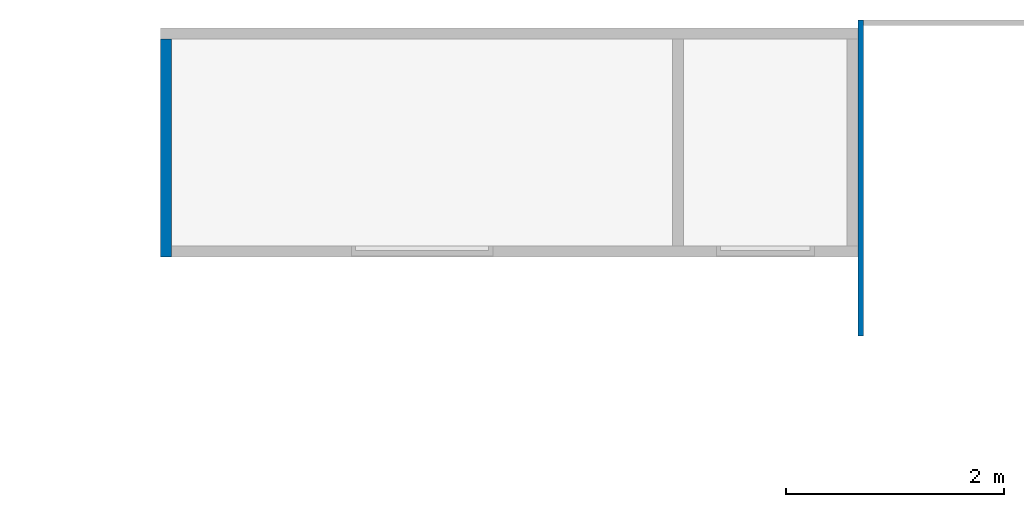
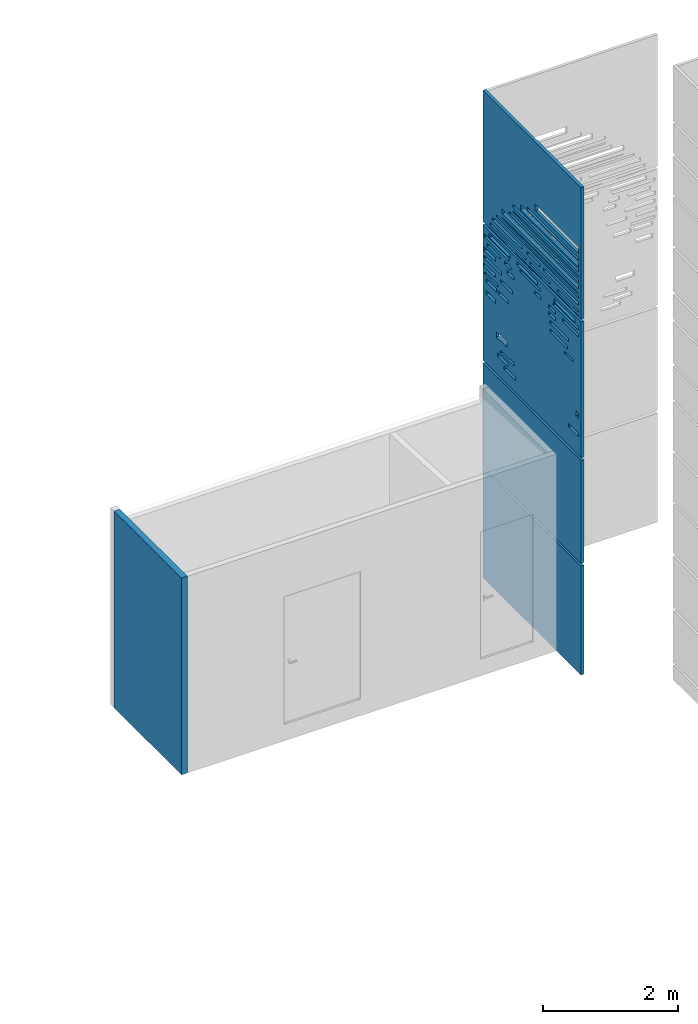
# One storey, part 27 of 49: 2 walls, 50 openings.
"""IFC2X3 building model written with IfcOpenShell, lengths in millimetres."""

import ifcopenshell
import ifcopenshell.guid

model = None  # the IFC model being written
_history = None  # IfcOwnerHistory: only IFC2X3 demands one
_inside = {}  # id of a spatial element -> (the spatial element, [elements in it])
_under = {}  # id of a project, library or spatial element -> (it, [spatial elements below it])
_declared = {}  # id of a project -> (the project, [libraries it declares])
_typed = {}  # id of a type object -> (the type object, [elements of that type])
_made_of = {}  # id of a material, layer set ... -> (it, [elements and type objects made of it])


def new_model(schema):
    """Start an empty IFC model of exactly this schema.

    Asked for "IFC4X3", IfcOpenShell would pick the latest addendum, in which some entities
    have other attributes; the version numbers below select the first issue.
    IFC2X3 requires an IfcOwnerHistory on every rooted entity: one is made here for all.
    """
    global model, _history
    if schema == "IFC4X3":
        model = ifcopenshell.file(schema_version=(4, 3, 0, 0))
    else:
        model = ifcopenshell.file(schema=schema)
    _inside.clear()
    _under.clear()
    _declared.clear()
    _typed.clear()
    _made_of.clear()
    _history = None
    if model.schema == "IFC2X3":
        org = make("IfcOrganization", Name="unknown")
        user = make(
            "IfcPersonAndOrganization",
            ThePerson=make("IfcPerson", FamilyName="unknown"),
            TheOrganization=org,
        )
        app = make(
            "IfcApplication",
            ApplicationDeveloper=org,
            Version="unknown",
            ApplicationFullName="unknown",
            ApplicationIdentifier="unknown",
        )
        _history = make(
            "IfcOwnerHistory",
            OwningUser=user,
            OwningApplication=app,
            ChangeAction="ADDED",
            CreationDate=0,
        )
    return model


def make(cls, **values):
    """One entity of the class cls with the attributes given. An attribute that is None is left unset."""
    return model.create_entity(
        cls, **{name: value for name, value in values.items() if value is not None}
    )


def entity(cls, *values):
    """Any entity or typed value of the class cls, its attributes in the order of the schema. None: left unset."""
    e = model.create_entity(cls)
    for i, value in enumerate(values):
        if value is not None:
            e[i] = value
    return e


def rooted(cls, **values):
    """An entity with a GlobalId (a new one), such as an element, a storey or a relation."""
    return make(cls, GlobalId=ifcopenshell.guid.new(), OwnerHistory=_history, **values)


def si_unit(unit_type, name, prefix=None):
    """IfcSIUnit, for example si_unit("LENGTHUNIT", "METRE", prefix="MILLI")."""
    return make("IfcSIUnit", UnitType=unit_type, Prefix=prefix, Name=name)


def converted_unit(unit_type, name, factor, base, dimensions=None, offset=None):
    """IfcConversionBasedUnit, such as the inch: factor (a typed value) times the base unit."""
    return make(
        "IfcConversionBasedUnit"
        if offset is None
        else "IfcConversionBasedUnitWithOffset",
        ConversionOffset=offset,
        Dimensions=None
        if dimensions is None
        else entity("IfcDimensionalExponents", *dimensions),
        UnitType=unit_type,
        Name=name,
        ConversionFactor=make(
            "IfcMeasureWithUnit", ValueComponent=factor, UnitComponent=base
        ),
    )


def derived_unit(unit_type, elements):
    """IfcDerivedUnit: a product of units, each with its exponent."""
    return make(
        "IfcDerivedUnit",
        Elements=[
            make("IfcDerivedUnitElement", Unit=unit, Exponent=power)
            for unit, power in elements
        ],
        UnitType=unit_type,
    )


def assignment(units):
    """IfcUnitAssignment: the units of a project."""
    return None if units is None else make("IfcUnitAssignment", Units=units)


def point(xyz):
    """IfcCartesianPoint."""
    return None if xyz is None else make("IfcCartesianPoint", Coordinates=xyz)


def direction(xyz):
    """IfcDirection."""
    return None if xyz is None else make("IfcDirection", DirectionRatios=xyz)


def frame(location, z_axis=None, x_axis=None):
    """IfcAxis2Placement3D, a coordinate frame: its origin and axes. An axis left out is left unset."""
    return make(
        "IfcAxis2Placement3D",
        Location=point(location),
        Axis=direction(z_axis),
        RefDirection=direction(x_axis),
    )


def frame_2d(location, x_axis=None):
    """IfcAxis2Placement2D, a coordinate frame in the plane: its origin and x axis."""
    return make(
        "IfcAxis2Placement2D", Location=point(location), RefDirection=direction(x_axis)
    )


def origin():
    """The frame at (0, 0, 0) with its axes left unset."""
    return frame((0.0, 0.0, 0.0))


def origin_2d_with_axis():
    """The frame at (0, 0) in the plane with the x axis (1, 0) written out."""
    return frame_2d((0.0, 0.0), x_axis=(1.0, 0.0))


def place(relative_to, where):
    """IfcLocalPlacement: puts the frame where relative to a parent placement (None: the world)."""
    return make(
        "IfcLocalPlacement", PlacementRelTo=relative_to, RelativePlacement=where
    )


def context(
    kind, dimensions, precision=None, world=None, true_north=None, identifier=None
):
    """IfcGeometricRepresentationContext, for example the 3D "Model" context."""
    return make(
        "IfcGeometricRepresentationContext",
        ContextIdentifier=identifier,
        ContextType=kind,
        CoordinateSpaceDimension=dimensions,
        Precision=precision,
        WorldCoordinateSystem=world,
        TrueNorth=true_north,
    )


def subcontext(parent, identifier, kind, view, scale=None):
    """IfcGeometricRepresentationSubContext, for example "Body" below "Model"."""
    return make(
        "IfcGeometricRepresentationSubContext",
        ContextIdentifier=identifier,
        ContextType=kind,
        ParentContext=parent,
        TargetScale=scale,
        TargetView=view,
    )


def project(units=None, contexts=None):
    """IfcProject with its units and contexts."""
    return rooted(
        "IfcProject",
        Name="project",
        RepresentationContexts=contexts,
        UnitsInContext=assignment(units),
    )


def spatial(cls, under=None, at=None, **own):
    """A site, building, storey or space (cls), placed at a placement, below another one or the project."""
    s = rooted(cls, ObjectPlacement=at, **own)
    if under is not None:
        _under.setdefault(under.id(), (under, []))[1].append(s)
    return s


def profile(cls, at=None, kind="AREA", **sizes):
    """A parametric profile (cls). Its sizes go by their IFC names, for example OverallWidth=200.0."""
    return make(cls, ProfileType=kind, Position=at, **sizes)


def rectangle(**sizes):
    """IfcRectangleProfileDef."""
    return profile("IfcRectangleProfileDef", **sizes)


def extrude(swept, where, along, depth):
    """IfcExtrudedAreaSolid: the profile swept, set in the frame where, extruded along a direction by depth."""
    return make(
        "IfcExtrudedAreaSolid",
        SweptArea=swept,
        Position=where,
        ExtrudedDirection=direction(along),
        Depth=depth,
    )


def shape(context_of_items, identifier, shape_type, items):
    """IfcShapeRepresentation: the items that make up one representation, for example the "Body"."""
    return make(
        "IfcShapeRepresentation",
        ContextOfItems=context_of_items,
        RepresentationIdentifier=identifier,
        RepresentationType=shape_type,
        Items=items,
    )


def material(Name=None, Category=None):
    """IfcMaterial."""
    return make("IfcMaterial", Name=Name, Category=Category)


def layer(
    of_material, thickness, ventilated=None, Name=None, Category=None, Priority=None
):
    """IfcMaterialLayer: one layer of a wall or slab, of a material (None: an air gap)."""
    return make(
        "IfcMaterialLayer",
        Material=of_material,
        LayerThickness=thickness,
        IsVentilated=ventilated,
        Name=Name,
        Category=Category,
        Priority=Priority,
    )


def layer_set(layers, Name=None):
    """IfcMaterialLayerSet."""
    return make("IfcMaterialLayerSet", MaterialLayers=layers, LayerSetName=Name)


def layer_usage(for_layer_set, set_direction, sense, offset, extent=None):
    """IfcMaterialLayerSetUsage: how a layer set lies in its element."""
    return make(
        "IfcMaterialLayerSetUsage",
        ForLayerSet=for_layer_set,
        LayerSetDirection=set_direction,
        DirectionSense=sense,
        OffsetFromReferenceLine=offset,
        ReferenceExtent=extent,
    )


def made_of(thing, what):
    """Note that an element or type object is made of a material, layer set ...; save() writes the relation."""
    if what is not None:
        _made_of.setdefault(what.id(), (what, []))[1].append(thing)
    return thing


def type_object(cls, material=None, **own):
    """A type object (cls), such as IfcWallType, which elements share."""
    return made_of(rooted(cls, **own), material)


def element(
    cls,
    number,
    at=None,
    inside=None,
    cuts=None,
    type_object=None,
    material=None,
    context=None,
    identifier="Body",
    shape_type=None,
    held_by="IfcProductDefinitionShape",
    body=None,
    shapes=None,
    **own,
):
    """One element of the class cls, such as IfcWall. Its Tag is "e" and its number.

    at: its placement. inside: the storey or other place that contains it. cuts: it is an
    opening in that element (IfcRelVoidsElement). A single representation is given by context,
    identifier, shape_type and body (its items); several are given by shapes. held_by: the class
    of the entity that holds the representations. save() writes the other relations.
    """
    e = rooted(cls, Tag="e%d" % number, ObjectPlacement=at, **own)
    if body is not None:
        shapes = [shape(context, identifier, shape_type, body)]
    if shapes is not None:
        e.Representation = make(held_by, Representations=shapes)
    if inside is not None:
        _inside.setdefault(inside.id(), (inside, []))[1].append(e)
    if cuts is not None:
        rooted(
            "IfcRelVoidsElement", RelatingBuildingElement=cuts, RelatedOpeningElement=e
        )
    if type_object is not None:
        _typed.setdefault(type_object.id(), (type_object, []))[1].append(e)
    return made_of(e, material)


def aggregate(whole, parts):
    """IfcRelAggregates: a whole, such as a stair, and the parts it consists of."""
    return rooted("IfcRelAggregates", RelatingObject=whole, RelatedObjects=parts)


def save(model, path):
    """Write the relations noted so far, then the file.

    IfcRelAggregates (storeys below a building ...), IfcRelContainedInSpatialStructure (elements
    in a storey), IfcRelDefinesByType, IfcRelAssociatesMaterial and IfcRelDeclares: one each for
    every whole, place, type object, material and project.
    """
    for whole, parts in _under.values():
        aggregate(whole, parts)
    for where, things in _inside.values():
        rooted(
            "IfcRelContainedInSpatialStructure",
            RelatedElements=things,
            RelatingStructure=where,
        )
    for kind, things in _typed.values():
        rooted("IfcRelDefinesByType", RelatedObjects=things, RelatingType=kind)
    for what, things in _made_of.values():
        rooted("IfcRelAssociatesMaterial", RelatedObjects=things, RelatingMaterial=what)
    for by, libraries in _declared.values():
        rooted("IfcRelDeclares", RelatingContext=by, RelatedDefinitions=libraries)
    model.write(path)


model = new_model("IFC2X3")

# Units and contexts
model_context = context("Model", 3, precision=0.01, world=origin(), true_north=direction((6.12303176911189e-17, 1.0)))
body_context = subcontext(model_context, "Body", "Model", "MODEL_VIEW")
ifc_project = project(units=[si_unit("LENGTHUNIT", "METRE", prefix="MILLI"), si_unit("AREAUNIT", "SQUARE_METRE"), si_unit("VOLUMEUNIT", "CUBIC_METRE"), converted_unit("PLANEANGLEUNIT", "DEGREE", entity("IfcRatioMeasure", 0.0174532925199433), si_unit("PLANEANGLEUNIT", "RADIAN"), dimensions=[0, 0, 0, 0, 0, 0, 0]), si_unit("MASSUNIT", "GRAM", prefix="KILO"), derived_unit("MASSDENSITYUNIT", [(si_unit("MASSUNIT", "GRAM", prefix="KILO"), 1), (si_unit("LENGTHUNIT", "METRE"), -3)]), si_unit("TIMEUNIT", "SECOND"), si_unit("FREQUENCYUNIT", "HERTZ"), si_unit("THERMODYNAMICTEMPERATUREUNIT", "DEGREE_CELSIUS"), derived_unit("THERMALTRANSMITTANCEUNIT", [(si_unit("MASSUNIT", "GRAM", prefix="KILO"), 1), (si_unit("THERMODYNAMICTEMPERATUREUNIT", "KELVIN"), -1), (si_unit("TIMEUNIT", "SECOND"), -3)]), derived_unit("VOLUMETRICFLOWRATEUNIT", [(si_unit("LENGTHUNIT", "METRE"), 3), (si_unit("TIMEUNIT", "SECOND"), -1)]), si_unit("ELECTRICCURRENTUNIT", "AMPERE"), si_unit("ELECTRICVOLTAGEUNIT", "VOLT"), si_unit("POWERUNIT", "WATT"), si_unit("FORCEUNIT", "NEWTON", prefix="KILO"), si_unit("ILLUMINANCEUNIT", "LUX"), si_unit("LUMINOUSFLUXUNIT", "LUMEN"), si_unit("LUMINOUSINTENSITYUNIT", "CANDELA"), derived_unit("USERDEFINED", [(si_unit("MASSUNIT", "GRAM", prefix="KILO"), -1), (si_unit("LENGTHUNIT", "METRE"), -2), (si_unit("TIMEUNIT", "SECOND"), 3), (si_unit("LUMINOUSFLUXUNIT", "LUMEN"), 1)]), derived_unit("LINEARVELOCITYUNIT", [(si_unit("LENGTHUNIT", "METRE"), 1), (si_unit("TIMEUNIT", "SECOND"), -1)]), si_unit("PRESSUREUNIT", "PASCAL"), derived_unit("USERDEFINED", [(si_unit("LENGTHUNIT", "METRE"), -2), (si_unit("MASSUNIT", "GRAM", prefix="KILO"), 1), (si_unit("TIMEUNIT", "SECOND"), -2)])], contexts=[model_context])

# Site, building, storey
site_placement = place(None, frame((-151.875543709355, 2715.0, 0.0)))
site = spatial("IfcSite", under=ifc_project, at=site_placement, Name="Surface", CompositionType="ELEMENT")
building_placement = place(site_placement, origin())
building = spatial("IfcBuilding", under=site, at=building_placement, CompositionType="ELEMENT")
storey_placement = place(building_placement, origin())
storey = spatial("IfcBuildingStorey", under=building, at=storey_placement, Name="1 korrus", CompositionType="ELEMENT", Elevation=3.0969999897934e-10)

# Wall, openings
ifc_material_1 = material(Name="Steel/Aluminium")
wall_type_1 = type_object("IfcWallType", Name="trepi sein1:trepi sein1", PredefinedType="NOTDEFINED", material=ifc_material_1)
wall_1_placement = place(storey_placement, frame((28601.6162682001, 23860.0, 0.0), z_axis=(0.0, 0.0, 1.0), x_axis=(0.0, 1.0, 0.0)))
wall_1 = element("IfcWall", 1, at=wall_1_placement, inside=storey, type_object=wall_type_1, material=ifc_material_1, Name="trepi sein1:trepi sein1", ObjectType="trepi sein1:trepi sein1", context=body_context, shape_type="SweptSolid", body=[
    extrude(rectangle(XDim=49.9999999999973, YDim=2900.00000000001, at=origin_2d_with_axis()), frame((1450.0, -25.0, 6425.0), z_axis=(0.0, 0.0, 1.0), x_axis=(0.0, 1.0, 0.0)), (0.0, 0.0, 1.0), 2375.26883013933),
    extrude(rectangle(XDim=49.9999999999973, YDim=2900.00000000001, at=frame_2d((2.16537898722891e-12, 2.1600499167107e-12), x_axis=(1.0, 0.0))), frame((1450.0, -25.0, 0.0), z_axis=(0.0, 0.0, 1.0), x_axis=(0.0, 1.0, 0.0)), (0.0, 0.0, 1.0), 1965.0),
    extrude(rectangle(XDim=49.9999999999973, YDim=2900.00000000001, at=origin_2d_with_axis()), frame((1450.0, -25.0, 3925.0), z_axis=(0.0, 0.0, 1.0), x_axis=(0.0, 1.0, 0.0)), (0.0, 0.0, 1.0), 2450.0),
    extrude(rectangle(XDim=49.9999999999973, YDim=2900.00000000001, at=frame_2d((0.0, 2.1600499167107e-12), x_axis=(1.0, 0.0))), frame((1450.0, -25.0, 2015.0), z_axis=(0.0, 0.0, 1.0), x_axis=(0.0, 1.0, 0.0)), (0.0, 0.0, 1.0), 1860.0),
])
opening_1_placement = place(storey_placement, frame((28601.6162682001, 23860.0, 0.0), z_axis=(0.0, 0.0, 1.0), x_axis=(0.0, 1.0, 0.0)))
element("IfcOpeningElement", 2, at=opening_1_placement, cuts=wall_1, Name="trepi sein1:trepi sein1:1", ObjectType="Opening", context=body_context, shape_type="SweptSolid", body=[
    extrude(rectangle(XDim=61.2932578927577, YDim=336.362635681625, at=frame_2d((0.0, 0.0), x_axis=(0.0, 1.0))), frame((2105.08216654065, -50.0, 4173.44171084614), z_axis=(0.0, 1.0, 0.0), x_axis=(-1.0, 0.0, 0.0)), (0.0, 0.0, 1.0), 49.9999999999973),
])
opening_2_placement = place(storey_placement, frame((28601.6162682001, 23860.0, 0.0), z_axis=(0.0, 0.0, 1.0), x_axis=(0.0, 1.0, 0.0)))
element("IfcOpeningElement", 3, at=opening_2_placement, cuts=wall_1, Name="trepi sein1:trepi sein1:2", ObjectType="Opening", context=body_context, shape_type="SweptSolid", body=[
    extrude(rectangle(XDim=63.6123424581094, YDim=315.766463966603, at=origin_2d_with_axis()), frame((2309.93790279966, -50.0, 4287.43815852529), z_axis=(0.0, 1.0, 0.0), x_axis=(0.0, 0.0, -1.0)), (0.0, 0.0, 1.0), 49.9999999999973),
])
opening_3_placement = place(storey_placement, frame((28601.6162682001, 23860.0, 0.0), z_axis=(0.0, 0.0, 1.0), x_axis=(0.0, 1.0, 0.0)))
element("IfcOpeningElement", 4, at=opening_3_placement, cuts=wall_1, Name="trepi sein1:trepi sein1:3", ObjectType="Opening", context=body_context, shape_type="SweptSolid", body=[
    extrude(rectangle(XDim=63.9897979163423, YDim=284.551326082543, at=origin_2d_with_axis()), frame((222.548599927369, -50.0, 4287.62688625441), z_axis=(0.0, 1.0, 0.0), x_axis=(0.0, 0.0, -1.0)), (0.0, 0.0, 1.0), 49.9999999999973),
])
opening_4_placement = place(storey_placement, frame((28601.6162682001, 23860.0, 0.0), z_axis=(0.0, 0.0, 1.0), x_axis=(0.0, 1.0, 0.0)))
element("IfcOpeningElement", 5, at=opening_4_placement, cuts=wall_1, Name="trepi sein1:trepi sein1:4", ObjectType="Opening", context=body_context, shape_type="SweptSolid", body=[
    extrude(rectangle(XDim=52.5438992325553, YDim=402.005544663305, at=frame_2d((-2.1600499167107e-12, 0.0), x_axis=(0.0, 1.0))), frame((2177.11088492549, -50.0, 4397.87498455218), z_axis=(0.0, 1.0, 0.0), x_axis=(1.0, 0.0, 0.0)), (0.0, 0.0, 1.0), 49.9999999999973),
])
opening_5_placement = place(storey_placement, frame((28601.6162682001, 23860.0, 0.0), z_axis=(0.0, 0.0, 1.0), x_axis=(0.0, 1.0, 0.0)))
element("IfcOpeningElement", 6, at=opening_5_placement, cuts=wall_1, Name="trepi sein1:trepi sein1:5", ObjectType="Opening", context=body_context, shape_type="SweptSolid", body=[
    extrude(rectangle(XDim=92.4935339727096, YDim=313.381887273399, at=frame_2d((0.0, 2.17426077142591e-12), x_axis=(1.0, 0.0))), frame((2348.68458691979, -50.0, 4633.99435882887), z_axis=(0.0, 1.0, 0.0), x_axis=(0.0, 0.0, -1.0)), (0.0, 0.0, 1.0), 49.9999999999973),
])
opening_6_placement = place(storey_placement, frame((28601.6162682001, 23860.0, 0.0), z_axis=(0.0, 0.0, 1.0), x_axis=(0.0, 1.0, 0.0)))
element("IfcOpeningElement", 7, at=opening_6_placement, cuts=wall_1, Name="trepi sein1:trepi sein1:6", ObjectType="Opening", context=body_context, shape_type="SweptSolid", body=[
    extrude(rectangle(XDim=92.4935339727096, YDim=74.0077841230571, at=origin_2d_with_axis()), frame((117.276828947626, -50.0, 4633.99435882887), z_axis=(0.0, 1.0, 0.0), x_axis=(0.0, 0.0, -1.0)), (0.0, 0.0, 1.0), 49.9999999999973),
])
opening_7_placement = place(storey_placement, frame((28601.6162682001, 23860.0, 0.0), z_axis=(0.0, 0.0, 1.0), x_axis=(0.0, 1.0, 0.0)))
element("IfcOpeningElement", 8, at=opening_7_placement, cuts=wall_1, Name="trepi sein1:trepi sein1:7", ObjectType="Opening", context=body_context, shape_type="SweptSolid", body=[
    extrude(rectangle(XDim=71.3851652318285, YDim=280.155766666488, at=frame_2d((4.33431068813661e-12, 0.0), x_axis=(0.0, 1.0))), frame((2674.52226733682, -50.0, 5206.95953558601), z_axis=(0.0, 1.0, 0.0), x_axis=(1.0, 0.0, 0.0)), (0.0, 0.0, 1.0), 49.9999999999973),
])
opening_8_placement = place(storey_placement, frame((28601.6162682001, 23860.0, 0.0), z_axis=(0.0, 0.0, 1.0), x_axis=(0.0, 1.0, 0.0)))
element("IfcOpeningElement", 9, at=opening_8_placement, cuts=wall_1, Name="trepi sein1:trepi sein1:8", ObjectType="Opening", context=body_context, shape_type="SweptSolid", body=[
    extrude(rectangle(XDim=62.7887878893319, YDim=309.224620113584, at=frame_2d((2.17426077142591e-12, 0.0), x_axis=(0.0, 1.0))), frame((2659.98784061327, -50.0, 5427.39412520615), z_axis=(0.0, 1.0, 0.0), x_axis=(1.0, 0.0, 0.0)), (0.0, 0.0, 1.0), 49.9999999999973),
])
opening_9_placement = place(storey_placement, frame((28601.6162682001, 23860.0, 0.0), z_axis=(0.0, 0.0, 1.0), x_axis=(0.0, 1.0, 0.0)))
element("IfcOpeningElement", 10, at=opening_9_placement, cuts=wall_1, Name="trepi sein1:trepi sein1:9", ObjectType="Opening", context=body_context, shape_type="SweptSolid", body=[
    extrude(rectangle(XDim=62.7887878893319, YDim=295.707683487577, at=frame_2d((-2.1600499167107e-12, 0.0), x_axis=(0.0, 1.0))), frame((2299.90851256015, -50.0, 5427.39412520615), z_axis=(0.0, 1.0, 0.0), x_axis=(1.0, 0.0, 0.0)), (0.0, 0.0, 1.0), 49.9999999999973),
])
opening_10_placement = place(storey_placement, frame((28601.6162682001, 23860.0, 0.0), z_axis=(0.0, 0.0, 1.0), x_axis=(0.0, 1.0, 0.0)))
element("IfcOpeningElement", 11, at=opening_10_placement, cuts=wall_1, Name="trepi sein1:trepi sein1:10", ObjectType="Opening", context=body_context, shape_type="SweptSolid", body=[
    extrude(rectangle(XDim=42.1652066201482, YDim=408.237645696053, at=frame_2d((0.0, -2.17426077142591e-12), x_axis=(1.0, 0.0))), frame((2651.88117715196, -50.0, 5533.38422327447), z_axis=(0.0, 1.0, 0.0), x_axis=(0.0, 0.0, -1.0)), (0.0, 0.0, 1.0), 49.9999999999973),
])
opening_11_placement = place(storey_placement, frame((28601.6162682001, 23860.0, 0.0), z_axis=(0.0, 0.0, 1.0), x_axis=(0.0, 1.0, 0.0)))
element("IfcOpeningElement", 12, at=opening_11_placement, cuts=wall_1, Name="trepi sein1:trepi sein1:11", ObjectType="Opening", context=body_context, shape_type="SweptSolid", body=[
    extrude(rectangle(XDim=42.1652066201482, YDim=256.484720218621, at=origin_2d_with_axis()), frame((360.19218771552, -50.0, 5533.38422327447), z_axis=(0.0, 1.0, 0.0), x_axis=(0.0, 0.0, -1.0)), (0.0, 0.0, 1.0), 49.9999999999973),
])
opening_12_placement = place(storey_placement, frame((28601.6162682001, 23860.0, 0.0), z_axis=(0.0, 0.0, 1.0), x_axis=(0.0, 1.0, 0.0)))
element("IfcOpeningElement", 13, at=opening_12_placement, cuts=wall_1, Name="trepi sein1:trepi sein1:12", ObjectType="Opening", context=body_context, shape_type="SweptSolid", body=[
    extrude(rectangle(XDim=54.4895814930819, YDim=518.321295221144, at=frame_2d((-2.1600499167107e-12, 0.0), x_axis=(0.0, 1.0))), frame((663.426834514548, -50.0, 5671.63863379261), z_axis=(0.0, 1.0, 0.0), x_axis=(1.0, 0.0, 0.0)), (0.0, 0.0, 1.0), 49.9999999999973),
])
opening_13_placement = place(storey_placement, frame((28601.6162682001, 23860.0, 0.0), z_axis=(0.0, 0.0, 1.0), x_axis=(0.0, 1.0, 0.0)))
element("IfcOpeningElement", 14, at=opening_13_placement, cuts=wall_1, Name="trepi sein1:trepi sein1:13", ObjectType="Opening", context=body_context, shape_type="SweptSolid", body=[
    extrude(rectangle(XDim=54.4895814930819, YDim=350.746976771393, at=frame_2d((0.0, 0.0), x_axis=(0.0, 1.0))), frame((2202.74016887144, -50.0, 5671.63863379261), z_axis=(0.0, 1.0, 0.0), x_axis=(1.0, 0.0, 0.0)), (0.0, 0.0, 1.0), 49.9999999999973),
])
opening_14_placement = place(storey_placement, frame((28601.6162682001, 23860.0, 0.0), z_axis=(0.0, 0.0, 1.0), x_axis=(0.0, 1.0, 0.0)))
element("IfcOpeningElement", 15, at=opening_14_placement, cuts=wall_1, Name="trepi sein1:trepi sein1:14", ObjectType="Opening", context=body_context, shape_type="SweptSolid", body=[
    extrude(rectangle(XDim=54.4895814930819, YDim=354.570174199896, at=frame_2d((0.0, 0.0), x_axis=(0.0, 1.0))), frame((2711.72947110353, -50.0, 5671.63863379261), z_axis=(0.0, 1.0, 0.0), x_axis=(1.0, 0.0, 0.0)), (0.0, 0.0, 1.0), 49.9999999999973),
])
opening_15_placement = place(storey_placement, frame((28601.6162682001, 23860.0, 0.0), z_axis=(0.0, 0.0, 1.0), x_axis=(0.0, 1.0, 0.0)))
element("IfcOpeningElement", 16, at=opening_15_placement, cuts=wall_1, Name="trepi sein1:trepi sein1:15", ObjectType="Opening", context=body_context, shape_type="SweptSolid", body=[
    extrude(rectangle(XDim=56.9222624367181, YDim=506.629996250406, at=frame_2d((0.0, -2.1600499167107e-12), x_axis=(1.0, 0.0))), frame((2602.68500187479, -50.0, 5819.58467582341), z_axis=(0.0, 1.0, 0.0), x_axis=(0.0, 0.0, -1.0)), (0.0, 0.0, 1.0), 49.9999999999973),
])
opening_16_placement = place(storey_placement, frame((28601.6162682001, 23860.0, 0.0), z_axis=(0.0, 0.0, 1.0), x_axis=(0.0, 1.0, 0.0)))
element("IfcOpeningElement", 17, at=opening_16_placement, cuts=wall_1, Name="trepi sein1:trepi sein1:16", ObjectType="Opening", context=body_context, shape_type="SweptSolid", body=[
    extrude(rectangle(XDim=56.9222624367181, YDim=554.61232922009, at=origin_2d_with_axis()), frame((645.281317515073, -50.0, 5819.58467582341), z_axis=(0.0, 1.0, 0.0), x_axis=(0.0, 0.0, -1.0)), (0.0, 0.0, 1.0), 49.9999999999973),
])
opening_17_placement = place(storey_placement, frame((28601.6162682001, 23860.0, 0.0), z_axis=(0.0, 0.0, 1.0), x_axis=(0.0, 1.0, 0.0)))
element("IfcOpeningElement", 18, at=opening_17_placement, cuts=wall_1, Name="trepi sein1:trepi sein1:17", ObjectType="Opening", context=body_context, shape_type="SweptSolid", body=[
    extrude(rectangle(XDim=59.5138768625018, YDim=203.381372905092, at=frame_2d((2.16715534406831e-12, 0.0), x_axis=(0.0, 1.0))), frame((860.347611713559, -50.0, 5960.20954725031), z_axis=(0.0, 1.0, 0.0), x_axis=(1.0, 0.0, 0.0)), (0.0, 0.0, 1.0), 49.9999999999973),
])
opening_18_placement = place(storey_placement, frame((28601.6162682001, 23860.0, 0.0), z_axis=(0.0, 0.0, 1.0), x_axis=(0.0, 1.0, 0.0)))
element("IfcOpeningElement", 19, at=opening_18_placement, cuts=wall_1, Name="trepi sein1:trepi sein1:18", ObjectType="Opening", context=body_context, shape_type="SweptSolid", body=[
    extrude(rectangle(XDim=59.5138768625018, YDim=215.885530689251, at=frame_2d((0.0, 0.0), x_axis=(0.0, 1.0))), frame((2084.05087793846, -50.0, 5960.20954725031), z_axis=(0.0, 1.0, 0.0), x_axis=(1.0, 0.0, 0.0)), (0.0, 0.0, 1.0), 49.9999999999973),
])
opening_19_placement = place(storey_placement, frame((28601.6162682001, 23860.0, 0.0), z_axis=(0.0, 0.0, 1.0), x_axis=(0.0, 1.0, 0.0)))
element("IfcOpeningElement", 20, at=opening_19_placement, cuts=wall_1, Name="trepi sein1:trepi sein1:19", ObjectType="Opening", context=body_context, shape_type="SweptSolid", body=[
    extrude(rectangle(XDim=59.5138768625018, YDim=331.555615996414, at=frame_2d((4.33431068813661e-12, 0.0), x_axis=(0.0, 1.0))), frame((2700.22219200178, -50.0, 5960.20954725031), z_axis=(0.0, 1.0, 0.0), x_axis=(1.0, 0.0, 0.0)), (0.0, 0.0, 1.0), 49.9999999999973),
])
opening_20_placement = place(storey_placement, frame((28601.6162682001, 23860.0, 0.0), z_axis=(0.0, 0.0, 1.0), x_axis=(0.0, 1.0, 0.0)))
element("IfcOpeningElement", 21, at=opening_20_placement, cuts=wall_1, Name="trepi sein1:trepi sein1:20", ObjectType="Opening", context=body_context, shape_type="SweptSolid", body=[
    extrude(rectangle(XDim=53.8403938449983, YDim=385.247959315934, at=origin_2d_with_axis()), frame((2590.53688364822, -50.0, 6081.83922728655), z_axis=(0.0, 1.0, 0.0), x_axis=(0.0, 0.0, -1.0)), (0.0, 0.0, 1.0), 49.9999999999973),
])
opening_21_placement = place(storey_placement, frame((28601.6162682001, 23860.0, 0.0), z_axis=(0.0, 0.0, 1.0), x_axis=(0.0, 1.0, 0.0)))
element("IfcOpeningElement", 22, at=opening_21_placement, cuts=wall_1, Name="trepi sein1:trepi sein1:21", ObjectType="Opening", context=body_context, shape_type="SweptSolid", body=[
    extrude(rectangle(XDim=53.8403938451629, YDim=192.623979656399, at=origin_2d_with_axis()), frame((2158.75396163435, -50.0, 6081.83922728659), z_axis=(0.0, 1.0, 0.0), x_axis=(0.0, 0.0, -1.0)), (0.0, 0.0, 1.0), 49.9999999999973),
])
opening_22_placement = place(storey_placement, frame((28601.6162682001, 23860.0, 0.0), z_axis=(0.0, 0.0, 1.0), x_axis=(0.0, 1.0, 0.0)))
element("IfcOpeningElement", 23, at=opening_22_placement, cuts=wall_1, Name="trepi sein1:trepi sein1:22", ObjectType="Opening", context=body_context, shape_type="SweptSolid", body=[
    extrude(rectangle(XDim=53.8403938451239, YDim=186.775423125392, at=origin_2d_with_axis()), frame((1280.61810593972, -50.0, 6081.83922728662), z_axis=(0.0, 1.0, 0.0), x_axis=(0.0, 0.0, -1.0)), (0.0, 0.0, 1.0), 49.9999999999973),
])
opening_23_placement = place(storey_placement, frame((28601.6162682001, 23860.0, 0.0), z_axis=(0.0, 0.0, 1.0), x_axis=(0.0, 1.0, 0.0)))
element("IfcOpeningElement", 24, at=opening_23_placement, cuts=wall_1, Name="trepi sein1:trepi sein1:23", ObjectType="Opening", context=body_context, shape_type="SweptSolid", body=[
    extrude(rectangle(XDim=53.8403938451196, YDim=203.381372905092, at=frame_2d((0.0, -2.16715534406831e-12), x_axis=(1.0, 0.0))), frame((860.347611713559, -50.0, 6081.83922728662), z_axis=(0.0, 1.0, 0.0), x_axis=(0.0, 0.0, -1.0)), (0.0, 0.0, 1.0), 49.9999999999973),
])
opening_24_placement = place(storey_placement, frame((28601.6162682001, 23860.0, 0.0), z_axis=(0.0, 0.0, 1.0), x_axis=(0.0, 1.0, 0.0)))
element("IfcOpeningElement", 25, at=opening_24_placement, cuts=wall_1, Name="trepi sein1:trepi sein1:24", ObjectType="Opening", context=body_context, shape_type="SweptSolid", body=[
    extrude(rectangle(XDim=53.840393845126, YDim=463.331601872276, at=frame_2d((0.0, 2.1600499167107e-12), x_axis=(1.0, 0.0))), frame((311.938737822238, -50.0, 6081.83922728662), z_axis=(0.0, 1.0, 0.0), x_axis=(0.0, 0.0, -1.0)), (0.0, 0.0, 1.0), 49.9999999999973),
])
opening_25_placement = place(storey_placement, frame((28601.6162682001, 23860.0, 0.0), z_axis=(0.0, 0.0, 1.0), x_axis=(0.0, 1.0, 0.0)))
element("IfcOpeningElement", 26, at=opening_25_placement, cuts=wall_1, Name="trepi sein1:trepi sein1:25", ObjectType="Opening", context=body_context, shape_type="SweptSolid", body=[
    extrude(rectangle(XDim=49.7853412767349, YDim=749.251765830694, at=frame_2d((2.1600499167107e-12, 0.0), x_axis=(0.0, 1.0))), frame((454.898819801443, -50.0, 6208.05684172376), z_axis=(0.0, 1.0, 0.0), x_axis=(1.0, 0.0, 0.0)), (0.0, 0.0, 1.0), 49.9999999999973),
])
opening_26_placement = place(storey_placement, frame((28601.6162682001, 23860.0, 0.0), z_axis=(0.0, 0.0, 1.0), x_axis=(0.0, 1.0, 0.0)))
element("IfcOpeningElement", 27, at=opening_26_placement, cuts=wall_1, Name="trepi sein1:trepi sein1:26", ObjectType="Opening", context=body_context, shape_type="SweptSolid", body=[
    extrude(rectangle(XDim=49.7853412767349, YDim=586.478122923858, at=frame_2d((0.0, 0.0), x_axis=(0.0, 1.0))), frame((1503.23653047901, -50.0, 6208.05684172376), z_axis=(0.0, 1.0, 0.0), x_axis=(1.0, 0.0, 0.0)), (0.0, 0.0, 1.0), 49.9999999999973),
])
opening_27_placement = place(storey_placement, frame((28601.6162682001, 23860.0, 0.0), z_axis=(0.0, 0.0, 1.0), x_axis=(0.0, 1.0, 0.0)))
element("IfcOpeningElement", 28, at=opening_27_placement, cuts=wall_1, Name="trepi sein1:trepi sein1:27", ObjectType="Opening", context=body_context, shape_type="SweptSolid", body=[
    extrude(rectangle(XDim=49.7853412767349, YDim=732.509929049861, at=frame_2d((-2.18847162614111e-12, 0.0), x_axis=(0.0, 1.0))), frame((2489.29473708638, -50.0, 6208.05684172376), z_axis=(0.0, 1.0, 0.0), x_axis=(1.0, 0.0, 0.0)), (0.0, 0.0, 1.0), 49.9999999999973),
])
opening_28_placement = place(storey_placement, frame((28601.6162682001, 23860.0, 0.0), z_axis=(0.0, 0.0, 1.0), x_axis=(0.0, 1.0, 0.0)))
element("IfcOpeningElement", 29, at=opening_28_placement, cuts=wall_1, Name="trepi sein1:trepi sein1:28", ObjectType="Opening", context=body_context, shape_type="SweptSolid", body=[
    extrude(rectangle(XDim=65.7605058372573, YDim=618.837703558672, at=frame_2d((0.0, 2.1600499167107e-12), x_axis=(1.0, 0.0))), frame((2407.57479150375, -50.0, 6289.16148729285), z_axis=(0.0, 1.0, 0.0), x_axis=(0.0, 0.0, -1.0)), (0.0, 0.0, 1.0), 49.9999999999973),
])
opening_29_placement = place(storey_placement, frame((28601.6162682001, 23860.0, 0.0), z_axis=(0.0, 0.0, 1.0), x_axis=(0.0, 1.0, 0.0)))
element("IfcOpeningElement", 30, at=opening_29_placement, cuts=wall_1, Name="trepi sein1:trepi sein1:29", ObjectType="Opening", context=body_context, shape_type="SweptSolid", body=[
    extrude(rectangle(XDim=65.7605058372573, YDim=618.086649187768, at=frame_2d((0.0, -2.18847162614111e-12), x_axis=(1.0, 0.0))), frame((1589.07282959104, -50.0, 6289.16148729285), z_axis=(0.0, 1.0, 0.0), x_axis=(0.0, 0.0, -1.0)), (0.0, 0.0, 1.0), 49.9999999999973),
])
opening_30_placement = place(storey_placement, frame((28601.6162682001, 23860.0, 0.0), z_axis=(0.0, 0.0, 1.0), x_axis=(0.0, 1.0, 0.0)))
element("IfcOpeningElement", 31, at=opening_30_placement, cuts=wall_1, Name="trepi sein1:trepi sein1:30", ObjectType="Opening", context=body_context, shape_type="SweptSolid", body=[
    extrude(rectangle(XDim=65.7605058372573, YDim=618.086649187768, at=frame_2d((0.0, 2.18847162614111e-12), x_axis=(1.0, 0.0))), frame((483.323763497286, -50.0, 6289.16148729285), z_axis=(0.0, 1.0, 0.0), x_axis=(0.0, 0.0, -1.0)), (0.0, 0.0, 1.0), 49.9999999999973),
])
opening_31_placement = place(storey_placement, frame((28601.6162682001, 23860.0, 0.0), z_axis=(0.0, 0.0, 1.0), x_axis=(0.0, 1.0, 0.0)))
element("IfcOpeningElement", 32, at=opening_31_placement, cuts=wall_1, Name="trepi sein1:trepi sein1:31", ObjectType="Opening", context=body_context, shape_type="SweptSolid", body=[
    extrude(rectangle(XDim=15.0000000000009, YDim=525.000000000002, at=origin_2d_with_axis()), frame((2454.49364328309, 0.0, 6436.88214990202), z_axis=(0.0, -1.0, 0.0), x_axis=(0.0, 0.0, 1.0)), (0.0, 0.0, 1.0), 49.9999999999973),
])
opening_32_placement = place(storey_placement, frame((28601.6162682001, 23860.0, 0.0), z_axis=(0.0, 0.0, 1.0), x_axis=(0.0, 1.0, 0.0)))
element("IfcOpeningElement", 33, at=opening_32_placement, cuts=wall_1, Name="trepi sein1:trepi sein1:32", ObjectType="Opening", context=body_context, shape_type="SweptSolid", body=[
    extrude(rectangle(XDim=15.0000000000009, YDim=360.873548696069, at=frame_2d((0.0, -2.1600499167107e-12), x_axis=(1.0, 0.0))), frame((1775.77620552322, 0.0, 6436.88214990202), z_axis=(0.0, -1.0, 0.0), x_axis=(0.0, 0.0, 1.0)), (0.0, 0.0, 1.0), 49.9999999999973),
])
opening_33_placement = place(storey_placement, frame((28601.6162682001, 23860.0, 0.0), z_axis=(0.0, 0.0, 1.0), x_axis=(0.0, 1.0, 0.0)))
element("IfcOpeningElement", 34, at=opening_33_placement, cuts=wall_1, Name="trepi sein1:trepi sein1:33", ObjectType="Opening", context=body_context, shape_type="SweptSolid", body=[
    extrude(rectangle(XDim=15.0000000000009, YDim=360.0, at=frame_2d((0.0, 2.1600499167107e-12), x_axis=(1.0, 0.0))), frame((1367.23039437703, 0.0, 6436.88214990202), z_axis=(0.0, -1.0, 0.0), x_axis=(0.0, 0.0, 1.0)), (0.0, 0.0, 1.0), 49.9999999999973),
])
opening_34_placement = place(storey_placement, frame((28601.6162682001, 23860.0, 0.0), z_axis=(0.0, 0.0, 1.0), x_axis=(0.0, 1.0, 0.0)))
element("IfcOpeningElement", 35, at=opening_34_placement, cuts=wall_1, Name="trepi sein1:trepi sein1:34", ObjectType="Opening", context=body_context, shape_type="SweptSolid", body=[
    extrude(rectangle(XDim=15.0000000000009, YDim=634.999999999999, at=frame_2d((0.0, 2.18847162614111e-12), x_axis=(1.0, 0.0))), frame((644.53829816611, 0.0, 6436.88214990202), z_axis=(0.0, -1.0, 0.0), x_axis=(0.0, 0.0, 1.0)), (0.0, 0.0, 1.0), 49.9999999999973),
])
opening_35_placement = place(storey_placement, frame((28601.6162682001, 23860.0, 0.0), z_axis=(0.0, 0.0, 1.0), x_axis=(0.0, 1.0, 0.0)))
element("IfcOpeningElement", 36, at=opening_35_placement, cuts=wall_1, Name="trepi sein1:trepi sein1:35", ObjectType="Opening", context=body_context, shape_type="SweptSolid", body=[
    extrude(rectangle(XDim=15.0000000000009, YDim=119.999999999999, at=origin_2d_with_axis()), frame((140.272936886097, 0.0, 6436.88214990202), z_axis=(0.0, -1.0, 0.0), x_axis=(0.0, 0.0, 1.0)), (0.0, 0.0, 1.0), 49.9999999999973),
])
opening_36_placement = place(storey_placement, frame((28601.6162682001, 23860.0, 0.0), z_axis=(0.0, 0.0, 1.0), x_axis=(0.0, 1.0, 0.0)))
element("IfcOpeningElement", 37, at=opening_36_placement, cuts=wall_1, Name="trepi sein1:trepi sein1:36", ObjectType="Opening", context=body_context, shape_type="SweptSolid", body=[
    extrude(rectangle(XDim=43.7473251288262, YDim=617.207317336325, at=frame_2d((0.0, -2.1600499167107e-12), x_axis=(1.0, 0.0))), frame((388.876595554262, 0.0, 6523.41873977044), z_axis=(0.0, -1.0, 0.0), x_axis=(0.0, 0.0, -1.0)), (0.0, 0.0, 1.0), 49.9999999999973),
])
opening_37_placement = place(storey_placement, frame((28601.6162682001, 23860.0, 0.0), z_axis=(0.0, 0.0, 1.0), x_axis=(0.0, 1.0, 0.0)))
element("IfcOpeningElement", 38, at=opening_37_placement, cuts=wall_1, Name="trepi sein1:trepi sein1:37", ObjectType="Opening", context=body_context, shape_type="SweptSolid", body=[
    extrude(rectangle(XDim=43.7473251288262, YDim=588.242217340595, at=frame_2d((0.0, -2.1600499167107e-12), x_axis=(1.0, 0.0))), frame((1216.70859079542, 0.0, 6523.41873977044), z_axis=(0.0, -1.0, 0.0), x_axis=(0.0, 0.0, -1.0)), (0.0, 0.0, 1.0), 49.9999999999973),
])
opening_38_placement = place(storey_placement, frame((28601.6162682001, 23860.0, 0.0), z_axis=(0.0, 0.0, 1.0), x_axis=(0.0, 1.0, 0.0)))
element("IfcOpeningElement", 39, at=opening_38_placement, cuts=wall_1, Name="trepi sein1:trepi sein1:38", ObjectType="Opening", context=body_context, shape_type="SweptSolid", body=[
    extrude(rectangle(XDim=43.7473251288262, YDim=1055.32737242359, at=origin_2d_with_axis()), frame((2158.4942017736, 0.0, 6523.41873977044), z_axis=(0.0, -1.0, 0.0), x_axis=(0.0, 0.0, -1.0)), (0.0, 0.0, 1.0), 49.9999999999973),
])
opening_39_placement = place(storey_placement, frame((28601.6162682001, 23860.0, 0.0), z_axis=(0.0, 0.0, 1.0), x_axis=(0.0, 1.0, 0.0)))
element("IfcOpeningElement", 40, at=opening_39_placement, cuts=wall_1, Name="trepi sein1:trepi sein1:39", ObjectType="Opening", context=body_context, shape_type="SweptSolid", body=[
    extrude(rectangle(XDim=56.5395739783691, YDim=872.408368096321, at=frame_2d((0.0, 0.0), x_axis=(0.0, 1.0))), frame((2178.79370288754, 0.0, 6654.01800331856), z_axis=(0.0, -1.0, 0.0), x_axis=(-1.0, 0.0, 0.0)), (0.0, 0.0, 1.0), 49.9999999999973),
])
opening_40_placement = place(storey_placement, frame((28601.6162682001, 23860.0, 0.0), z_axis=(0.0, 0.0, 1.0), x_axis=(0.0, 1.0, 0.0)))
element("IfcOpeningElement", 41, at=opening_40_placement, cuts=wall_1, Name="trepi sein1:trepi sein1:40", ObjectType="Opening", context=body_context, shape_type="SweptSolid", body=[
    extrude(rectangle(XDim=56.5395739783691, YDim=393.345268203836, at=frame_2d((2.1600499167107e-12, 0.0), x_axis=(0.0, 1.0))), frame((1406.670103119, 0.0, 6654.01800331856), z_axis=(0.0, -1.0, 0.0), x_axis=(-1.0, 0.0, 0.0)), (0.0, 0.0, 1.0), 49.9999999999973),
])
opening_41_placement = place(storey_placement, frame((28601.6162682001, 23860.0, 0.0), z_axis=(0.0, 0.0, 1.0), x_axis=(0.0, 1.0, 0.0)))
element("IfcOpeningElement", 42, at=opening_41_placement, cuts=wall_1, Name="trepi sein1:trepi sein1:41", ObjectType="Opening", context=body_context, shape_type="SweptSolid", body=[
    extrude(rectangle(XDim=56.5395739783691, YDim=1032.65479006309, at=frame_2d((0.0, 0.0), x_axis=(0.0, 1.0))), frame((596.600331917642, 0.0, 6654.01800331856), z_axis=(0.0, -1.0, 0.0), x_axis=(-1.0, 0.0, 0.0)), (0.0, 0.0, 1.0), 49.9999999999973),
])
opening_42_placement = place(storey_placement, frame((28601.6162682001, 23860.0, 0.0), z_axis=(0.0, 0.0, 1.0), x_axis=(0.0, 1.0, 0.0)))
element("IfcOpeningElement", 43, at=opening_42_placement, cuts=wall_1, Name="trepi sein1:trepi sein1:42", ObjectType="Opening", context=body_context, shape_type="SweptSolid", body=[
    extrude(rectangle(XDim=32.41759565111, YDim=2425.10259367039, at=frame_2d((0.0, 2.1600499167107e-12), x_axis=(1.0, 0.0))), frame((1292.82423372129, 0.0, 6776.19442701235), z_axis=(0.0, -1.0, 0.0), x_axis=(0.0, 0.0, -1.0)), (0.0, 0.0, 1.0), 49.9999999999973),
])
opening_43_placement = place(storey_placement, frame((28601.6162682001, 23860.0, 0.0), z_axis=(0.0, 0.0, 1.0), x_axis=(0.0, 1.0, 0.0)))
element("IfcOpeningElement", 44, at=opening_43_placement, cuts=wall_1, Name="trepi sein1:trepi sein1:43", ObjectType="Opening", context=body_context, shape_type="SweptSolid", body=[
    extrude(rectangle(XDim=10.8937052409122, YDim=2250.35650677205, at=frame_2d((-2.1600499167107e-12, 0.0), x_axis=(0.0, 1.0))), frame((1205.45119027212, 0.0, 6846.67199670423), z_axis=(0.0, -1.0, 0.0), x_axis=(-1.0, 0.0, 0.0)), (0.0, 0.0, 1.0), 49.9999999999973),
])
opening_44_placement = place(storey_placement, frame((28601.6162682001, 23860.0, 0.0), z_axis=(0.0, 0.0, 1.0), x_axis=(0.0, 1.0, 0.0)))
element("IfcOpeningElement", 45, at=opening_44_placement, cuts=wall_1, Name="trepi sein1:trepi sein1:44", ObjectType="Opening", context=body_context, shape_type="SweptSolid", body=[
    extrude(rectangle(XDim=83.2110974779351, YDim=2250.35650677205, at=frame_2d((0.0, 2.1600499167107e-12), x_axis=(1.0, 0.0))), frame((1205.45119027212, 0.0, 6962.57403943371), z_axis=(0.0, -1.0, 0.0), x_axis=(0.0, 0.0, -1.0)), (0.0, 0.0, 1.0), 49.9999999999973),
])
opening_45_placement = place(storey_placement, frame((28601.6162682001, 23860.0, 0.0), z_axis=(0.0, 0.0, 1.0), x_axis=(0.0, 1.0, 0.0)))
element("IfcOpeningElement", 46, at=opening_45_placement, cuts=wall_1, Name="trepi sein1:trepi sein1:45", ObjectType="Opening", context=body_context, shape_type="SweptSolid", body=[
    extrude(rectangle(XDim=45.5718489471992, YDim=2042.76683567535, at=frame_2d((0.0, 0.0), x_axis=(0.0, 1.0))), frame((1101.65635472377, 0.0, 7058.44834883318), z_axis=(0.0, -1.0, 0.0), x_axis=(-1.0, 0.0, 0.0)), (0.0, 0.0, 1.0), 49.9999999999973),
])
opening_46_placement = place(storey_placement, frame((28601.6162682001, 23860.0, 0.0), z_axis=(0.0, 0.0, 1.0), x_axis=(0.0, 1.0, 0.0)))
element("IfcOpeningElement", 47, at=opening_46_placement, cuts=wall_1, Name="trepi sein1:trepi sein1:46", ObjectType="Opening", context=body_context, shape_type="SweptSolid", body=[
    extrude(rectangle(XDim=25.590650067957, YDim=1936.7495478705, at=frame_2d((0.0, 0.0), x_axis=(0.0, 1.0))), frame((1048.64771082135, 0.0, 7153.79409404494), z_axis=(0.0, -1.0, 0.0), x_axis=(-1.0, 0.0, 0.0)), (0.0, 0.0, 1.0), 49.9999999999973),
])
opening_47_placement = place(storey_placement, frame((28601.6162682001, 23860.0, 0.0), z_axis=(0.0, 0.0, 1.0), x_axis=(0.0, 1.0, 0.0)))
element("IfcOpeningElement", 48, at=opening_47_placement, cuts=wall_1, Name="trepi sein1:trepi sein1:47", ObjectType="Opening", context=body_context, shape_type="SweptSolid", body=[
    extrude(rectangle(XDim=53.0746529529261, YDim=1936.7495478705, at=frame_2d((0.0, 0.0), x_axis=(0.0, 1.0))), frame((1048.64771082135, 0.0, 7255.9569279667), z_axis=(0.0, -1.0, 0.0), x_axis=(-1.0, 0.0, 0.0)), (0.0, 0.0, 1.0), 49.9999999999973),
])
opening_48_placement = place(storey_placement, frame((28601.6162682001, 23860.0, 0.0), z_axis=(0.0, 0.0, 1.0), x_axis=(0.0, 1.0, 0.0)))
element("IfcOpeningElement", 49, at=opening_48_placement, cuts=wall_1, Name="trepi sein1:trepi sein1:48", ObjectType="Opening", context=body_context, shape_type="SweptSolid", body=[
    extrude(rectangle(XDim=88.4583958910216, YDim=1709.13324253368, at=frame_2d((0.0, 0.0), x_axis=(0.0, 1.0))), frame((934.839558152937, 0.0, 7362.28465692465), z_axis=(0.0, -1.0, 0.0), x_axis=(-1.0, 0.0, 0.0)), (0.0, 0.0, 1.0), 49.9999999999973),
])
opening_49_placement = place(storey_placement, frame((28601.6162682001, 23860.0, 0.0), z_axis=(0.0, 0.0, 1.0), x_axis=(0.0, 1.0, 0.0)))
element("IfcOpeningElement", 50, at=opening_49_placement, cuts=wall_1, Name="trepi sein1:trepi sein1:49", ObjectType="Opening", context=body_context, shape_type="SweptSolid", body=[
    extrude(rectangle(XDim=51.7119736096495, YDim=1523.06980033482, at=frame_2d((0.0, 0.0), x_axis=(0.0, 1.0))), frame((841.807837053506, 0.0, 7459.14402788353), z_axis=(0.0, -1.0, 0.0), x_axis=(-1.0, 0.0, 0.0)), (0.0, 0.0, 1.0), 49.9999999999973),
])
opening_50_placement = place(storey_placement, frame((28601.6162682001, 23860.0, 0.0), z_axis=(0.0, 0.0, 1.0), x_axis=(0.0, 1.0, 0.0)))
element("IfcOpeningElement", 51, at=opening_50_placement, cuts=wall_1, Name="trepi sein1:trepi sein1:50", ObjectType="Opening", context=body_context, shape_type="SweptSolid", body=[
    extrude(rectangle(XDim=117.629103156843, YDim=1273.99059877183, at=frame_2d((0.0, 0.0), x_axis=(0.0, 1.0))), frame((717.268236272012, 0.0, 7621.28607622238), z_axis=(0.0, -1.0, 0.0), x_axis=(-1.0, 0.0, 0.0)), (0.0, 0.0, 1.0), 49.9999999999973),
])

# Wall
ifc_material_2 = material(Name="External face timepruun h=1100mm")
ifc_layer_1 = layer(ifc_material_2, 1.0)
ifc_material_3 = material(Name="Core Mineral wool Mineral Wool h=1100mm")
ifc_layer_2 = layer(ifc_material_3, 98.0)
ifc_material_4 = material(Name="Internal face RAL 7035 h=1100mm")
ifc_layer_3 = layer(ifc_material_4, 1.0)
ifc_layer_set = layer_set([ifc_layer_1, ifc_layer_2, ifc_layer_3], Name="Basic Wall:VS-3.1_SW kergpaneel 100mm")
ifc_layer_usage = layer_usage(ifc_layer_set, "AXIS2", "POSITIVE", -50.00000000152)
wall_type_2 = type_object("IfcWallType", Name="Basic Wall:VS-3.1_SW kergpaneel 100mm", PredefinedType="STANDARD", material=ifc_layer_set)
wall_2_placement = place(storey_placement, frame((22251.6162681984, 26584.9971338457, 0.0), z_axis=(0.0, 0.0, 1.0), x_axis=(0.0, -1.0, 0.0)))
element("IfcWallStandardCase", 52, at=wall_2_placement, inside=storey, type_object=wall_type_2, material=ifc_layer_usage, Name="Basic Wall:VS-3.1_SW kergpaneel 100mm", ObjectType="Basic Wall:VS-3.1_SW kergpaneel 100mm", context=body_context, shape_type="SweptSolid", body=[
    extrude(rectangle(XDim=1999.95950215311, YDim=100.000000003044, at=frame_2d((999.979751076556, -1.27897692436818e-13), x_axis=(-1.0, 0.0))), origin(), (0.0, 0.0, 1.0), 3550.0),
])

save(model, "model.ifc")
